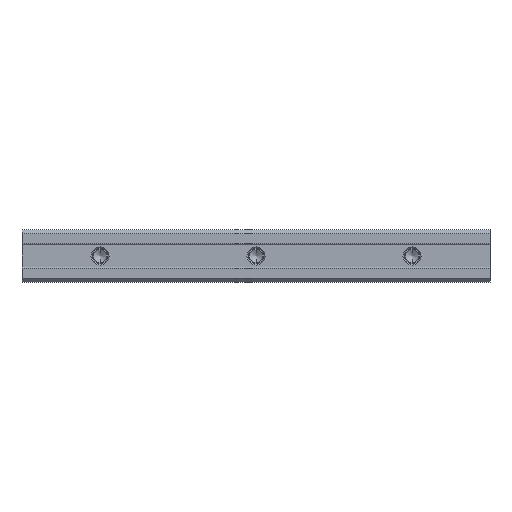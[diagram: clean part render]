
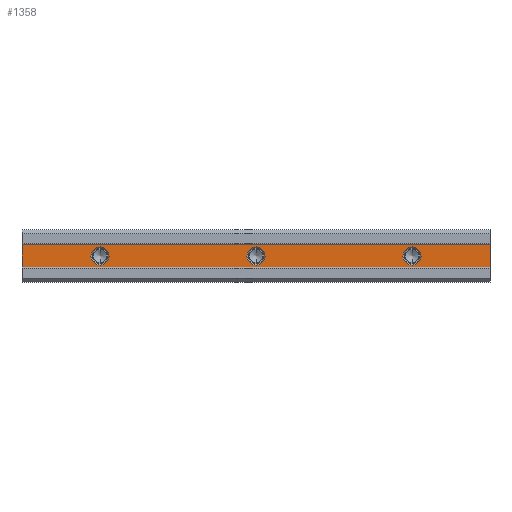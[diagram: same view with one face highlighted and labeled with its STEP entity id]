
A CAD part, front view. The second image highlights one B-rep face of the part: STEP entity #1358.
In plain terms, the highlighted planar face has unit normal (0, -1, 0).
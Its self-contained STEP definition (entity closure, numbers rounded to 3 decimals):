
#5 = VERTEX_POINT ( 'NONE', #319 ) ;
#15 = VERTEX_POINT ( 'NONE', #1103 ) ;
#47 = DIRECTION ( 'NONE',  ( -1., 0., 0. ) ) ;
#57 = CARTESIAN_POINT ( 'NONE',  ( 150., 0.5, -3.5 ) ) ;
#63 = CIRCLE ( 'NONE', #282, 3.5 ) ;
#73 = LINE ( 'NONE', #444, #272 ) ;
#80 = ORIENTED_EDGE ( 'NONE', *, *, #1387, .T. ) ;
#84 = AXIS2_PLACEMENT_3D ( 'NONE', #1128, #342, #193 ) ;
#99 = DIRECTION ( 'NONE',  ( 0., 0., 1. ) ) ;
#110 = EDGE_LOOP ( 'NONE', ( #1537, #892 ) ) ;
#115 = FACE_OUTER_BOUND ( 'NONE', #705, .T. ) ;
#124 = EDGE_CURVE ( 'NONE', #1063, #796, #73, .T. ) ;
#134 = VERTEX_POINT ( 'NONE', #1352 ) ;
#163 = AXIS2_PLACEMENT_3D ( 'NONE', #600, #1508, #1120 ) ;
#169 = EDGE_CURVE ( 'NONE', #134, #1194, #659, .T. ) ;
#193 = DIRECTION ( 'NONE',  ( 0., 0., 1. ) ) ;
#224 = FACE_BOUND ( 'NONE', #110, .T. ) ;
#225 = AXIS2_PLACEMENT_3D ( 'NONE', #1284, #504, #99 ) ;
#272 = VECTOR ( 'NONE', #47, 1000. ) ;
#282 = AXIS2_PLACEMENT_3D ( 'NONE', #445, #1502, #433 ) ;
#319 = CARTESIAN_POINT ( 'NONE',  ( 150., 0.5, 3.5 ) ) ;
#342 = DIRECTION ( 'NONE',  ( 0., 1., 0. ) ) ;
#369 = CARTESIAN_POINT ( 'NONE',  ( 0., 0.5, 4.25 ) ) ;
#418 = DIRECTION ( 'NONE',  ( 0., 0., 1. ) ) ;
#433 = DIRECTION ( 'NONE',  ( 0., 0., 1. ) ) ;
#434 = CARTESIAN_POINT ( 'NONE',  ( 90., 0.5, 0. ) ) ;
#437 = CIRCLE ( 'NONE', #693, 3.5 ) ;
#444 = CARTESIAN_POINT ( 'NONE',  ( 180., 0.5, 4.25 ) ) ;
#445 = CARTESIAN_POINT ( 'NONE',  ( 150., 0.5, 0. ) ) ;
#452 = EDGE_CURVE ( 'NONE', #1666, #610, #1555, .T. ) ;
#465 = CIRCLE ( 'NONE', #84, 3.5 ) ;
#470 = VECTOR ( 'NONE', #646, 1000. ) ;
#476 = ORIENTED_EDGE ( 'NONE', *, *, #1049, .T. ) ;
#504 = DIRECTION ( 'NONE',  ( 0., 1., 0. ) ) ;
#537 = CARTESIAN_POINT ( 'NONE',  ( 180., 0.5, 4.25 ) ) ;
#547 = VECTOR ( 'NONE', #914, 1000. ) ;
#598 = VERTEX_POINT ( 'NONE', #57 ) ;
#600 = CARTESIAN_POINT ( 'NONE',  ( 30., 0.5, 0. ) ) ;
#606 = ORIENTED_EDGE ( 'NONE', *, *, #667, .T. ) ;
#610 = VERTEX_POINT ( 'NONE', #1144 ) ;
#646 = DIRECTION ( 'NONE',  ( 0., 0., -1. ) ) ;
#659 = CIRCLE ( 'NONE', #163, 3.5 ) ;
#667 = EDGE_CURVE ( 'NONE', #1194, #134, #465, .T. ) ;
#693 = AXIS2_PLACEMENT_3D ( 'NONE', #1692, #760, #770 ) ;
#705 = EDGE_LOOP ( 'NONE', ( #80, #1506, #1703, #779 ) ) ;
#709 = CARTESIAN_POINT ( 'NONE',  ( 90., 0.5, -3.5 ) ) ;
#720 = AXIS2_PLACEMENT_3D ( 'NONE', #434, #1484, #418 ) ;
#734 = DIRECTION ( 'NONE',  ( 0., 0., -1. ) ) ;
#760 = DIRECTION ( 'NONE',  ( 0., 1., 0. ) ) ;
#767 = EDGE_CURVE ( 'NONE', #5, #598, #437, .T. ) ;
#770 = DIRECTION ( 'NONE',  ( 0., 0., 1. ) ) ;
#777 = AXIS2_PLACEMENT_3D ( 'NONE', #1109, #1627, #1373 ) ;
#779 = ORIENTED_EDGE ( 'NONE', *, *, #124, .T. ) ;
#796 = VERTEX_POINT ( 'NONE', #369 ) ;
#853 = CARTESIAN_POINT ( 'NONE',  ( 180., 0.5, -4.25 ) ) ;
#860 = CIRCLE ( 'NONE', #777, 3.5 ) ;
#867 = ORIENTED_EDGE ( 'NONE', *, *, #1124, .T. ) ;
#880 = FACE_BOUND ( 'NONE', #1075, .T. ) ;
#892 = ORIENTED_EDGE ( 'NONE', *, *, #767, .T. ) ;
#906 = CARTESIAN_POINT ( 'NONE',  ( 0., 0.5, 4.25 ) ) ;
#914 = DIRECTION ( 'NONE',  ( -1., 0., 0. ) ) ;
#953 = LINE ( 'NONE', #1469, #1384 ) ;
#1030 = CARTESIAN_POINT ( 'NONE',  ( 180., 0.5, -4.25 ) ) ;
#1049 = EDGE_CURVE ( 'NONE', #15, #1679, #1521, .T. ) ;
#1063 = VERTEX_POINT ( 'NONE', #537 ) ;
#1075 = EDGE_LOOP ( 'NONE', ( #606, #1199 ) ) ;
#1086 = CARTESIAN_POINT ( 'NONE',  ( 30., 0.5, -3.5 ) ) ;
#1103 = CARTESIAN_POINT ( 'NONE',  ( 90., 0.5, 3.5 ) ) ;
#1109 = CARTESIAN_POINT ( 'NONE',  ( 90., 0.5, 0. ) ) ;
#1120 = DIRECTION ( 'NONE',  ( 0., 0., 1. ) ) ;
#1124 = EDGE_CURVE ( 'NONE', #1679, #15, #860, .T. ) ;
#1126 = EDGE_CURVE ( 'NONE', #1063, #1666, #953, .T. ) ;
#1128 = CARTESIAN_POINT ( 'NONE',  ( 30., 0.5, 0. ) ) ;
#1144 = CARTESIAN_POINT ( 'NONE',  ( 0., 0.5, -4.25 ) ) ;
#1148 = PLANE ( 'NONE',  #225 ) ;
#1194 = VERTEX_POINT ( 'NONE', #1086 ) ;
#1199 = ORIENTED_EDGE ( 'NONE', *, *, #169, .T. ) ;
#1284 = CARTESIAN_POINT ( 'NONE',  ( 180., 0.5, 4.25 ) ) ;
#1352 = CARTESIAN_POINT ( 'NONE',  ( 30., 0.5, 3.5 ) ) ;
#1358 = ADVANCED_FACE ( 'NONE', ( #1406, #880, #115, #224 ), #1148, .F. ) ;
#1373 = DIRECTION ( 'NONE',  ( 0., 0., 1. ) ) ;
#1384 = VECTOR ( 'NONE', #734, 1000. ) ;
#1387 = EDGE_CURVE ( 'NONE', #796, #610, #1539, .T. ) ;
#1406 = FACE_BOUND ( 'NONE', #1524, .T. ) ;
#1469 = CARTESIAN_POINT ( 'NONE',  ( 180., 0.5, 4.25 ) ) ;
#1484 = DIRECTION ( 'NONE',  ( 0., 1., 0. ) ) ;
#1502 = DIRECTION ( 'NONE',  ( 0., 1., 0. ) ) ;
#1506 = ORIENTED_EDGE ( 'NONE', *, *, #452, .F. ) ;
#1508 = DIRECTION ( 'NONE',  ( 0., 1., 0. ) ) ;
#1521 = CIRCLE ( 'NONE', #720, 3.5 ) ;
#1524 = EDGE_LOOP ( 'NONE', ( #867, #476 ) ) ;
#1537 = ORIENTED_EDGE ( 'NONE', *, *, #1672, .T. ) ;
#1539 = LINE ( 'NONE', #906, #470 ) ;
#1555 = LINE ( 'NONE', #1030, #547 ) ;
#1627 = DIRECTION ( 'NONE',  ( 0., 1., 0. ) ) ;
#1666 = VERTEX_POINT ( 'NONE', #853 ) ;
#1672 = EDGE_CURVE ( 'NONE', #598, #5, #63, .T. ) ;
#1679 = VERTEX_POINT ( 'NONE', #709 ) ;
#1692 = CARTESIAN_POINT ( 'NONE',  ( 150., 0.5, 0. ) ) ;
#1703 = ORIENTED_EDGE ( 'NONE', *, *, #1126, .F. ) ;
